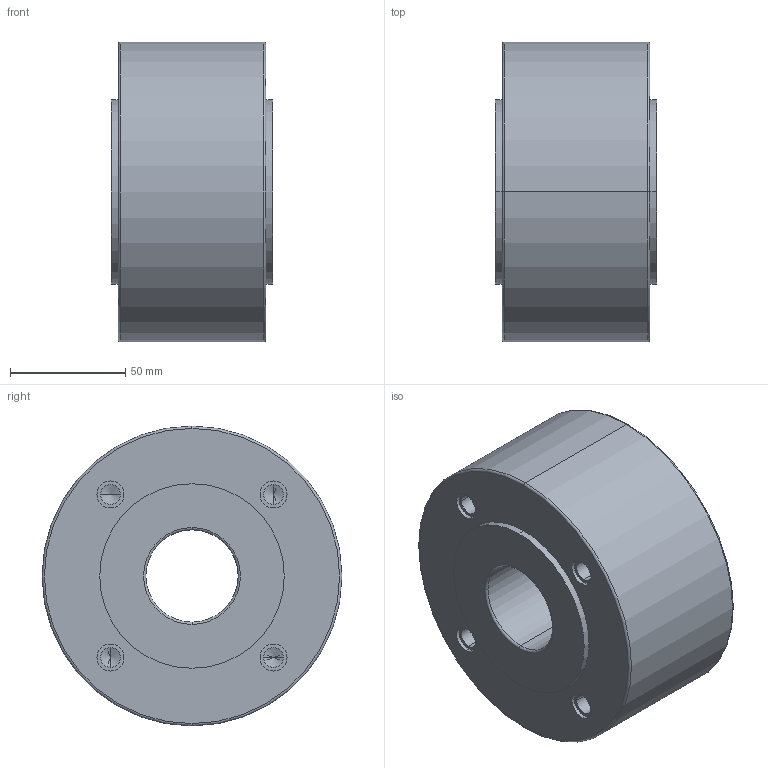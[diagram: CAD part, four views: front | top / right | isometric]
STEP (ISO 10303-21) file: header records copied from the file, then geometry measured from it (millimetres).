
FILE_DESCRIPTION (( 'STEP AP203' ), '1' );
FILE_NAME ('W8_PN06_DN040.STEP', '2012-10-31T07:08:41', ( 'luca.saino' ), ( 'Hewlett-Packard Company' ), 'SwSTEP 2.0', 'SolidWorks 2012', '' );
FILE_SCHEMA (( 'CONFIG_CONTROL_DESIGN' ));
Length unit declared in the file: millimetre
Products named in the file (1): W8_PN06_DN040
Bounding box: 70 x 130 x 130 mm (x, y, z)
Volume: 784343.6 mm3; surface area: 63048.5 mm2
Topology: 1 solids, 1 shells, 76 faces, 168 edges, 96 vertices
Faces by surface type: cylinder 40, cone 16, plane 12, torus 8
Entity records: 2085 total; most frequent: DIRECTION 402, CARTESIAN_POINT 325, ORIENTED_EDGE 304, AXIS2_PLACEMENT_3D 173, EDGE_CURVE 152, VERTEX_POINT 96, EDGE_LOOP 96, CIRCLE 96
